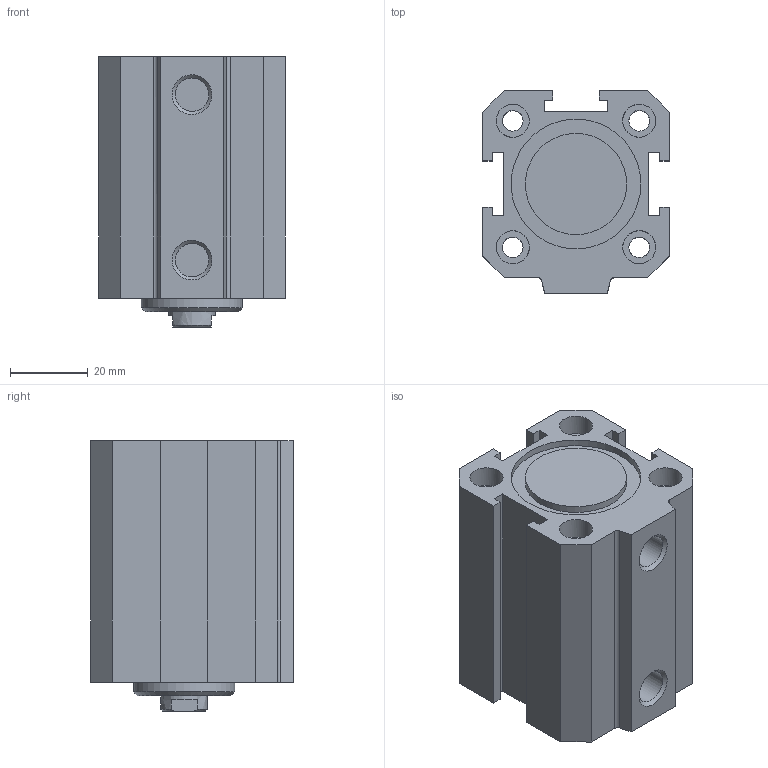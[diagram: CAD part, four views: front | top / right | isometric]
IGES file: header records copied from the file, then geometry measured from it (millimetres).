
Global section: file name: 1511_32_0025; native system: Autodesk Inventor 2014; preprocessor: unknown; author: A. Manieri; date: 20160824.113410; units: millimetre
Bounding box: 48 x 52 x 69.5 mm (x, y, z)
Volume: 104196.7 mm3; surface area: 35453.9 mm2
Topology: 2 solids, 2 shells, 93 faces, 237 edges, 166 vertices
Faces by surface type: bspline 93
